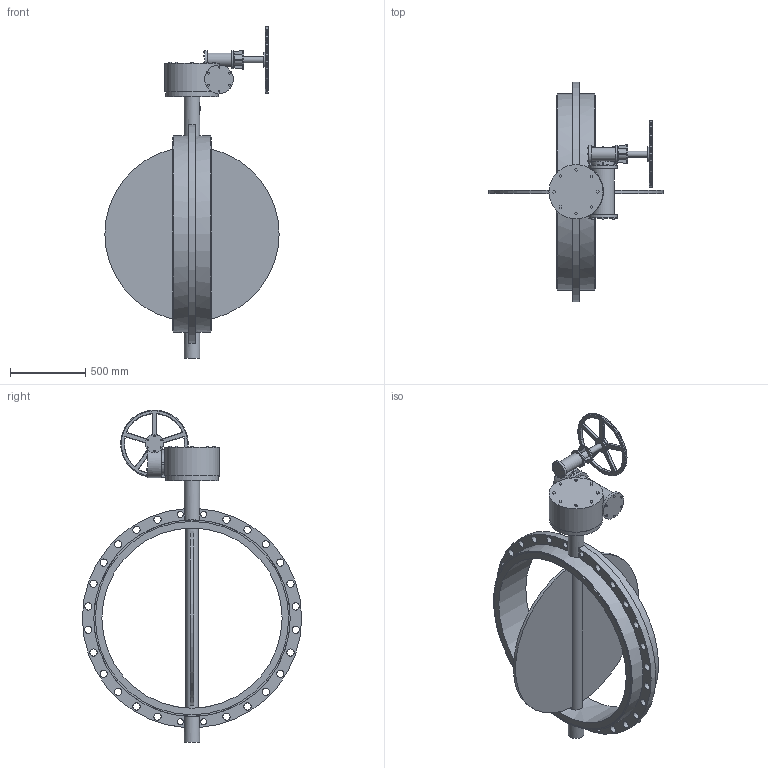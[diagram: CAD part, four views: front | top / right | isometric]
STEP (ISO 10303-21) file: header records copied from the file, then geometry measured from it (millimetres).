
FILE_DESCRIPTION(('STEP AP203'), '1');
FILE_NAME('青蜮铕 017W.YS_DN1200_PN16_疱潴牝铕', '', ('UNSPECIFIED'), ('UNSPECIFIED'), 'ASCON STEP Converter 1.6', 'ASCON Math Kernel', '');
FILE_SCHEMA(('CONFIG_CONTROL_DESIGN'));
Length unit declared in the file: millimetre
Bounding box: 1160.6 x 1460 x 2211 mm (x, y, z)
Volume: 129235162.5 mm3; surface area: 6606467.9 mm2
Topology: 1 solids, 1 shells, 621 faces, 1577 edges, 1013 vertices
Faces by surface type: plane 387, cylinder 136, torus 80, cone 16, bspline 2
Full cylindrical faces by diameter (mm): 17.294 x8, 22 x8, 40 x1, 40.129 x4, 48 x24, 85 x1, 90 x1, 100 x1, 105 x2, 120 x2, 125 x1, 150 x1, 190 x3, 350 x1, 360 x1, 450 x1, 1200 x1, 1288 x2, 1308 x2
Entity records: 26973 total; most frequent: CARTESIAN_POINT 6985, DIRECTION 3086, ORIENTED_EDGE 2970, EDGE_CURVE 1485, AXIS2_PLACEMENT_3D 1052, VERTEX_POINT 1007, LINE 982, VECTOR 982
